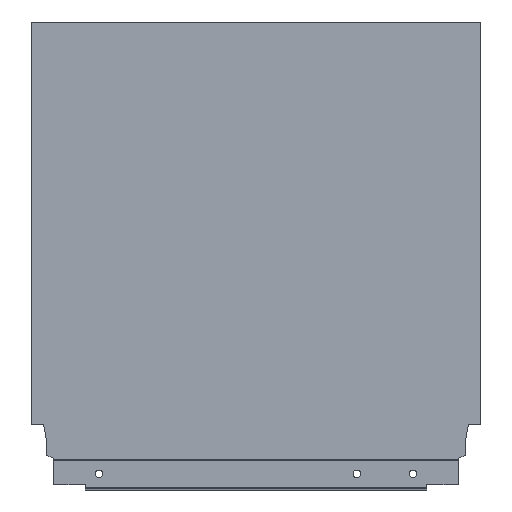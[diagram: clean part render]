
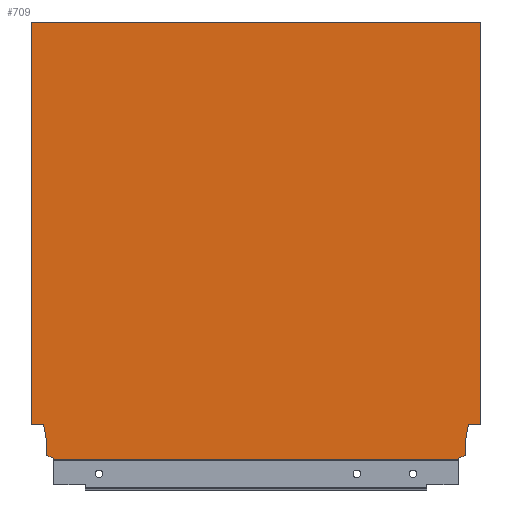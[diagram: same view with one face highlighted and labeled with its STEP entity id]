
A CAD part, top view. The second image highlights one B-rep face of the part: STEP entity #709.
In plain terms, the highlighted planar face has unit normal (0, 0, 1).
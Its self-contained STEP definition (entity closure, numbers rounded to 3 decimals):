
#5 = DIRECTION ( 'NONE',  ( 0., -1., 0. ) ) ;
#6 = CARTESIAN_POINT ( 'NONE',  ( -13.004, 1.146, 8. ) ) ;
#9 = DIRECTION ( 'NONE',  ( -1., 0., 0. ) ) ;
#10 = CARTESIAN_POINT ( 'NONE',  ( 0., 21.2, 8. ) ) ;
#49 = DIRECTION ( 'NONE',  ( 0., 1., 0. ) ) ;
#50 = CARTESIAN_POINT ( 'NONE',  ( -258.1, 10.765, 8. ) ) ;
#59 = CARTESIAN_POINT ( 'NONE',  ( -7.06, 21.2, 8. ) ) ;
#60 = CARTESIAN_POINT ( 'NONE',  ( 0., 21.2, 8. ) ) ;
#61 = CARTESIAN_POINT ( 'NONE',  ( -258.1, 2.64, 8. ) ) ;
#62 = CARTESIAN_POINT ( 'NONE',  ( -267., 260.7, 8. ) ) ;
#69 = CARTESIAN_POINT ( 'NONE',  ( -8.9, 10.765, 8. ) ) ;
#73 = CARTESIAN_POINT ( 'NONE',  ( -253.996, 1.146, 8. ) ) ;
#81 = CARTESIAN_POINT ( 'NONE',  ( -259.94, 21.2, 8. ) ) ;
#86 = CARTESIAN_POINT ( 'NONE',  ( -13.004, 1.146, 8. ) ) ;
#107 = CARTESIAN_POINT ( 'NONE',  ( 0., 260.7, 8. ) ) ;
#109 = CARTESIAN_POINT ( 'NONE',  ( -267., 21.2, 8. ) ) ;
#118 = CARTESIAN_POINT ( 'NONE',  ( -258.1, 10.765, 8. ) ) ;
#122 = CARTESIAN_POINT ( 'NONE',  ( -13.004, 0., 8. ) ) ;
#123 = CARTESIAN_POINT ( 'NONE',  ( -253.996, 0., 8. ) ) ;
#134 = CARTESIAN_POINT ( 'NONE',  ( -8.9, 2.64, 8. ) ) ;
#143 = VERTEX_POINT ( 'NONE', #134 ) ;
#155 = VERTEX_POINT ( 'NONE', #123 ) ;
#156 = VERTEX_POINT ( 'NONE', #122 ) ;
#160 = VERTEX_POINT ( 'NONE', #118 ) ;
#169 = VERTEX_POINT ( 'NONE', #109 ) ;
#171 = VERTEX_POINT ( 'NONE', #107 ) ;
#192 = VERTEX_POINT ( 'NONE', #86 ) ;
#197 = VERTEX_POINT ( 'NONE', #81 ) ;
#205 = VERTEX_POINT ( 'NONE', #73 ) ;
#209 = VERTEX_POINT ( 'NONE', #69 ) ;
#215 = VERTEX_POINT ( 'NONE', #62 ) ;
#217 = VERTEX_POINT ( 'NONE', #61 ) ;
#218 = VERTEX_POINT ( 'NONE', #60 ) ;
#219 = VERTEX_POINT ( 'NONE', #59 ) ;
#232 = CARTESIAN_POINT ( 'NONE',  ( -8.9, 2.64, 8. ) ) ;
#263 = CARTESIAN_POINT ( 'NONE',  ( -7.06, 21.2, 8. ) ) ;
#267 = DIRECTION ( 'NONE',  ( 1., 0., 0. ) ) ;
#269 = CARTESIAN_POINT ( 'NONE',  ( -267., 0., 8. ) ) ;
#270 = DIRECTION ( 'NONE',  ( 0., -1., 0. ) ) ;
#282 = CARTESIAN_POINT ( 'NONE',  ( 0., 0., 8. ) ) ;
#283 = DIRECTION ( 'NONE',  ( 0., -1., 0. ) ) ;
#300 = DIRECTION ( 'NONE',  ( -0.94, -0.342, 0. ) ) ;
#313 = DIRECTION ( 'NONE',  ( -1., 0., 0. ) ) ;
#314 = CARTESIAN_POINT ( 'NONE',  ( -272., 21.2, 8. ) ) ;
#353 = DIRECTION ( 'NONE',  ( -0.174, -0.985, 0. ) ) ;
#355 = CARTESIAN_POINT ( 'NONE',  ( -267., 0., 8. ) ) ;
#371 = CARTESIAN_POINT ( 'NONE',  ( -267., 0., 8. ) ) ;
#374 = CARTESIAN_POINT ( 'NONE',  ( -258.1, 2.64, 8. ) ) ;
#375 = DIRECTION ( 'NONE',  ( -0.94, 0.342, 0. ) ) ;
#376 = CARTESIAN_POINT ( 'NONE',  ( -267., 260.7, 8. ) ) ;
#377 = DIRECTION ( 'NONE',  ( 1., 0., 0. ) ) ;
#428 = CARTESIAN_POINT ( 'NONE',  ( -8.9, 10.765, 8. ) ) ;
#431 = DIRECTION ( 'NONE',  ( 1., 0., 0. ) ) ;
#441 = CARTESIAN_POINT ( 'NONE',  ( -253.996, 1.146, 8. ) ) ;
#442 = DIRECTION ( 'NONE',  ( 0., 1., 0. ) ) ;
#454 = DIRECTION ( 'NONE',  ( 0., -1., 0. ) ) ;
#456 = CARTESIAN_POINT ( 'NONE',  ( -259.94, 21.2, 8. ) ) ;
#458 = DIRECTION ( 'NONE',  ( 0., 0., 1. ) ) ;
#475 = PLANE ( 'NONE',  #563 ) ;
#501 = DIRECTION ( 'NONE',  ( -0.174, 0.985, 0. ) ) ;
#505 = EDGE_CURVE ( 'NONE', #217, #160, #1151, .T. ) ;
#530 = EDGE_CURVE ( 'NONE', #218, #219, #1116, .T. ) ;
#534 = EDGE_CURVE ( 'NONE', #192, #156, #1112, .T. ) ;
#560 = EDGE_CURVE ( 'NONE', #143, #192, #1065, .T. ) ;
#563 = AXIS2_PLACEMENT_3D ( 'NONE', #371, #458, #431 ) ;
#601 = EDGE_CURVE ( 'NONE', #197, #169, #924, .T. ) ;
#618 = EDGE_CURVE ( 'NONE', #219, #209, #917, .T. ) ;
#628 = EDGE_CURVE ( 'NONE', #171, #218, #1001, .T. ) ;
#639 = EDGE_CURVE ( 'NONE', #215, #169, #980, .T. ) ;
#641 = EDGE_CURVE ( 'NONE', #155, #156, #1017, .T. ) ;
#647 = EDGE_CURVE ( 'NONE', #215, #171, #963, .T. ) ;
#654 = EDGE_CURVE ( 'NONE', #205, #217, #946, .T. ) ;
#655 = EDGE_CURVE ( 'NONE', #155, #205, #943, .T. ) ;
#668 = EDGE_CURVE ( 'NONE', #160, #197, #1054, .T. ) ;
#679 = EDGE_CURVE ( 'NONE', #209, #143, #1461, .T. ) ;
#709 = ADVANCED_FACE ( 'NONE', ( #1484 ), #475, .T. ) ;
#917 = LINE ( 'NONE', #263, #1070 ) ;
#923 = VECTOR ( 'NONE', #313, 1000. ) ;
#924 = LINE ( 'NONE', #314, #923 ) ;
#942 = VECTOR ( 'NONE', #442, 1000. ) ;
#943 = LINE ( 'NONE', #441, #942 ) ;
#944 = VECTOR ( 'NONE', #375, 1000. ) ;
#946 = LINE ( 'NONE', #374, #944 ) ;
#962 = VECTOR ( 'NONE', #377, 1000. ) ;
#963 = LINE ( 'NONE', #376, #962 ) ;
#978 = VECTOR ( 'NONE', #267, 1000. ) ;
#979 = VECTOR ( 'NONE', #270, 1000. ) ;
#980 = LINE ( 'NONE', #269, #979 ) ;
#1001 = LINE ( 'NONE', #282, #1002 ) ;
#1002 = VECTOR ( 'NONE', #283, 1000. ) ;
#1017 = LINE ( 'NONE', #355, #978 ) ;
#1039 = VECTOR ( 'NONE', #300, 1000. ) ;
#1053 = VECTOR ( 'NONE', #501, 1000. ) ;
#1054 = LINE ( 'NONE', #456, #1053 ) ;
#1065 = LINE ( 'NONE', #232, #1039 ) ;
#1070 = VECTOR ( 'NONE', #353, 1000. ) ;
#1111 = VECTOR ( 'NONE', #5, 1000. ) ;
#1112 = LINE ( 'NONE', #6, #1111 ) ;
#1115 = VECTOR ( 'NONE', #9, 1000. ) ;
#1116 = LINE ( 'NONE', #10, #1115 ) ;
#1149 = VECTOR ( 'NONE', #49, 1000. ) ;
#1151 = LINE ( 'NONE', #50, #1149 ) ;
#1207 = ORIENTED_EDGE ( 'NONE', *, *, #639, .T. ) ;
#1210 = ORIENTED_EDGE ( 'NONE', *, *, #628, .F. ) ;
#1215 = ORIENTED_EDGE ( 'NONE', *, *, #668, .F. ) ;
#1216 = ORIENTED_EDGE ( 'NONE', *, *, #530, .F. ) ;
#1217 = ORIENTED_EDGE ( 'NONE', *, *, #679, .F. ) ;
#1218 = ORIENTED_EDGE ( 'NONE', *, *, #618, .F. ) ;
#1219 = ORIENTED_EDGE ( 'NONE', *, *, #560, .F. ) ;
#1221 = ORIENTED_EDGE ( 'NONE', *, *, #647, .F. ) ;
#1222 = ORIENTED_EDGE ( 'NONE', *, *, #601, .F. ) ;
#1223 = ORIENTED_EDGE ( 'NONE', *, *, #641, .T. ) ;
#1224 = ORIENTED_EDGE ( 'NONE', *, *, #655, .F. ) ;
#1225 = ORIENTED_EDGE ( 'NONE', *, *, #654, .F. ) ;
#1226 = ORIENTED_EDGE ( 'NONE', *, *, #505, .F. ) ;
#1227 = ORIENTED_EDGE ( 'NONE', *, *, #534, .F. ) ;
#1355 = EDGE_LOOP ( 'NONE', ( #1207, #1222, #1215, #1226, #1225, #1224, #1223, #1227, #1219, #1217, #1218, #1216, #1210, #1221 ) ) ;
#1461 = LINE ( 'NONE', #428, #1462 ) ;
#1462 = VECTOR ( 'NONE', #454, 1000. ) ;
#1484 = FACE_OUTER_BOUND ( 'NONE', #1355, .T. ) ;
